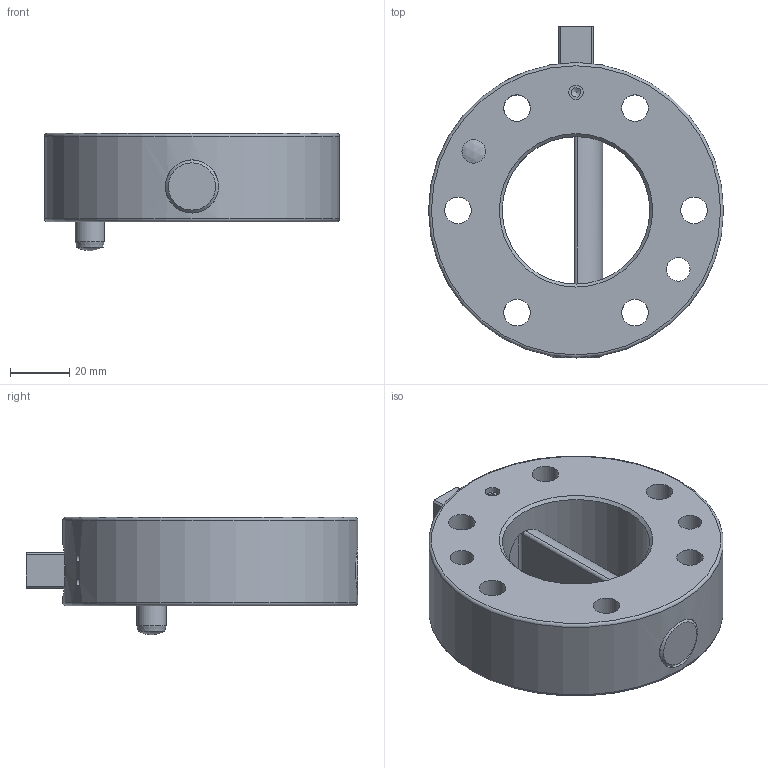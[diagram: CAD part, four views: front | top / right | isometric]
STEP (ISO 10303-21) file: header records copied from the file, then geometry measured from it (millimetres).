
FILE_DESCRIPTION((''),'2;1');
FILE_NAME('T:\CAD\Standard\Daten\3D-Datenbank\SWS\SWS100\step-Daten\G-SWS100-2O.stp','2011-08-19T13:39:51',('Yvonne'),(''),'Autodesk Inventor 2011','Autodesk Inventor 2011','');
FILE_SCHEMA(('AUTOMOTIVE_DESIGN { 1 0 10303 214 1 1 1 1 }'));
Length unit declared in the file: millimetre
Products named in the file (1): Bauteil12
Bounding box: 100 x 112.5 x 39.75 mm (x, y, z)
Volume: 165167.1 mm3; surface area: 35518.9 mm2
Topology: 1 solids, 1 shells, 92 faces, 223 edges, 141 vertices
Faces by surface type: cylinder 45, plane 30, cone 7, bspline 4, torus 4, sphere 2
Full cylindrical faces by diameter (mm): 2.459 x2, 4 x1, 4.917 x3, 8 x2, 9 x6, 10 x1, 15 x6, 18 x1, 50 x1, 100 x1
Entity records: 3032 total; most frequent: CARTESIAN_POINT 971, DIRECTION 394, ORIENTED_EDGE 348, EDGE_CURVE 174, AXIS2_PLACEMENT_3D 172, EDGE_LOOP 158, VERTEX_POINT 126, STYLED_ITEM 93
